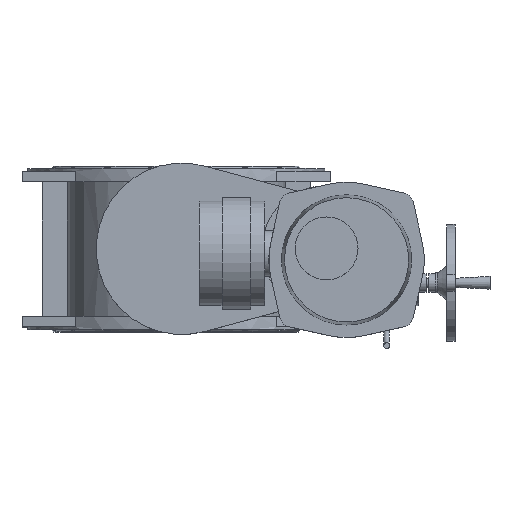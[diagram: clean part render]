
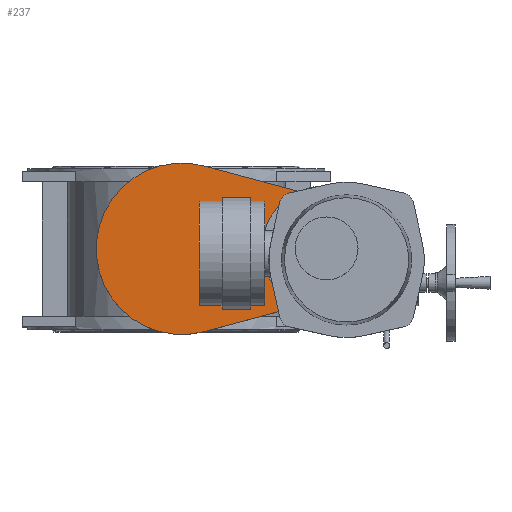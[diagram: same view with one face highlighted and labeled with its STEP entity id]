
A CAD part, top view. The second image highlights one B-rep face of the part: STEP entity #237.
In plain terms, the highlighted planar face has unit normal (0, 0, 1).
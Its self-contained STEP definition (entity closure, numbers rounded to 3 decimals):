
#237=ADVANCED_FACE('',(#2726),#2728,.F.);
#2726=FACE_BOUND('',#2727,.T.);
#2727=EDGE_LOOP('',(#4913,#4914,#4915,#4916,#4917));
#2728=PLANE('',#2729);
#2729=AXIS2_PLACEMENT_3D('',#2730,#2731,#2732);
#2730=CARTESIAN_POINT('',(298.,-20.,390.));
#2731=DIRECTION('',(0.,0.,-1.));
#2732=DIRECTION('',(1.,0.,0.));
#4913=ORIENTED_EDGE('',*,*,#6245,.T.);
#4914=ORIENTED_EDGE('',*,*,#6246,.T.);
#4915=ORIENTED_EDGE('',*,*,#6247,.F.);
#4916=ORIENTED_EDGE('',*,*,#6215,.F.);
#4917=ORIENTED_EDGE('',*,*,#6248,.F.);
#6215=EDGE_CURVE('',#6920,#6915,#6922,.T.);
#6245=EDGE_CURVE('',#6978,#6979,#6980,.F.);
#6246=EDGE_CURVE('',#6979,#6981,#6982,.F.);
#6247=EDGE_CURVE('',#6915,#6981,#6983,.T.);
#6248=EDGE_CURVE('',#6978,#6920,#6984,.T.);
#6915=VERTEX_POINT('',#8185);
#6920=VERTEX_POINT('',#8195);
#6922=CIRCLE('',#8199,150.);
#6978=VERTEX_POINT('',#8339);
#6979=VERTEX_POINT('',#8340);
#6980=CIRCLE('',#8341,85.);
#6981=VERTEX_POINT('',#8345);
#6982=CIRCLE('',#8346,85.);
#6983=LINE('',#8350,#8351);
#6984=LINE('',#8353,#8354);
#8185=CARTESIAN_POINT('',(49.,144.841,390.));
#8195=CARTESIAN_POINT('',(49.,-144.841,390.));
#8199=AXIS2_PLACEMENT_3D('',#8200,#8201,#8202);
#8200=CARTESIAN_POINT('',(10.,0.,390.));
#8201=DIRECTION('',(0.,0.,-1.));
#8202=DIRECTION('',(0.26,-0.966,0.));
#8339=CARTESIAN_POINT('',(282.1,-82.077,390.));
#8340=CARTESIAN_POINT('',(175.,0.,390.));
#8341=AXIS2_PLACEMENT_3D('',#8342,#8343,#8344);
#8342=CARTESIAN_POINT('',(260.,0.,390.));
#8343=DIRECTION('',(0.,0.,1.));
#8344=DIRECTION('',(-1.,0.,0.));
#8345=CARTESIAN_POINT('',(282.1,82.077,390.));
#8346=AXIS2_PLACEMENT_3D('',#8347,#8348,#8349);
#8347=CARTESIAN_POINT('',(260.,0.,390.));
#8348=DIRECTION('',(0.,0.,1.));
#8349=DIRECTION('',(0.26,0.966,0.));
#8350=CARTESIAN_POINT('',(49.,144.841,390.));
#8351=VECTOR('',#8352,1.);
#8352=DIRECTION('',(0.966,-0.26,0.));
#8353=CARTESIAN_POINT('',(282.1,-82.077,390.));
#8354=VECTOR('',#8355,1.);
#8355=DIRECTION('',(-0.966,-0.26,0.));
